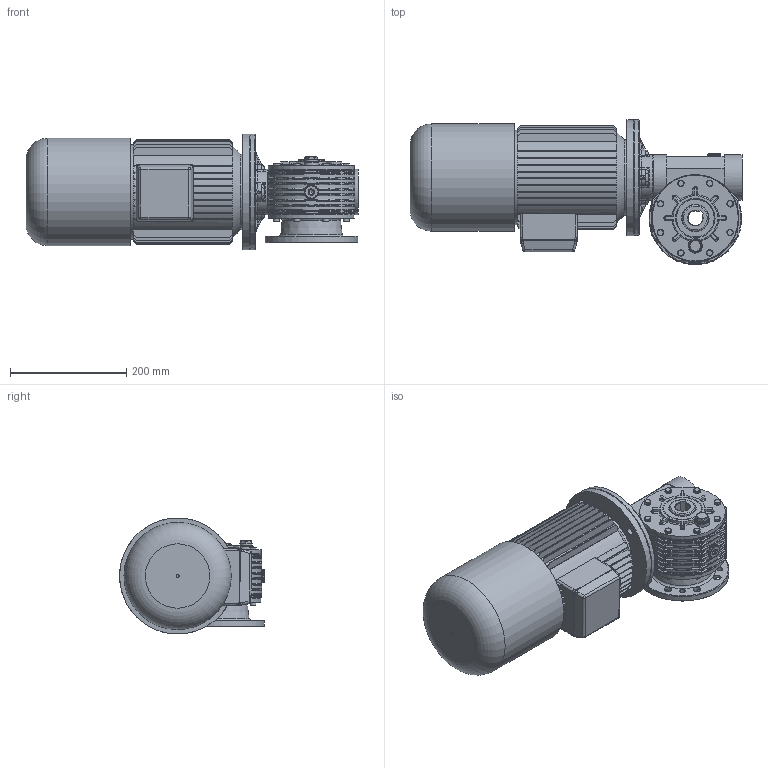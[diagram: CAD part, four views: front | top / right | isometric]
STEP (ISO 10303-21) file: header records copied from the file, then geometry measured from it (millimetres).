
FILE_DESCRIPTION((''),'2;1');
FILE_NAME('Y:\Archivi Inventor\Prog_01\GRAND_30\Figurini\MRV30 sito\90L autofrenante\MRV30_F2_90L_B5.stp','2013-02-06T11:05:41',('tech3'),(''),'Autodesk Inventor 2013','Autodesk Inventor 2013','');
FILE_SCHEMA(('AUTOMOTIVE_DESIGN { 1 0 10303 214 1 1 1 1 }'));
Length unit declared in the file: millimetre
Products named in the file (18): MRV30_90s_90L; MRV30; 0103001-A2 fig; 0103008.A1 fig F=25; PARAOLIO 45x65x10; RCA_52x7; Guarnizione 3_8 GAS; Tappo 3_8 GAS_esagn_incsst; 0103029; DIN EN 24017 M6 x 20; 0103028; 0103002-A0 fig; 0103003.A0 fig; DIN EN ISO 4762 M6 x 20; Tappo3_8 GAS; UNI 5931 M 8 x  25; 0103006; motori B5 brake 90L
Assembly tree (39 placements, depth 3):
  MRV30_90s_90L
    MRV30
      0103001-A2 fig
      0103008.A1 fig F=25
      PARAOLIO 45x65x10  x2
      RCA_52x7
      Guarnizione 3_8 GAS  x3
      Tappo 3_8 GAS_esagn_incsst  x2
      0103029  x2
      DIN EN 24017 M6 x 20  x8
      0103028
      0103002-A0 fig
      0103003.A0 fig
      DIN EN ISO 4762 M6 x 20  x8
      Tappo3_8 GAS
      UNI 5931 M 8 x  25  x4
    0103006
    motori B5 brake 90L
Bounding box: 572.4 x 249.68 x 199.97 mm (x, y, z)
Volume: 7618043.9 mm3; surface area: 1061629.2 mm2
Topology: 39 solids, 42 shells, 2086 faces, 5056 edges, 3027 vertices
Faces by surface type: plane 929, cylinder 655, torus 201, bspline 142, cone 119, sphere 40
Full cylindrical faces by diameter (mm): 2 x2, 4.917 x16, 5 x1, 6 x16, 6.5 x24, 6.647 x4, 7 x8, 8 x6, 8.5 x8, 8.88 x8, 9.5 x4, 10 x8, 11 x8, 11.5 x4, 13 x12, 13.046 x1, 14.95 x3, 16.3 x3, 16.5 x2, 22 x6, 24 x1, 25 x1, 43 x1, 45 x6, 45.76 x1, 50.881 x2, 52 x6, 55 x1, 60.5 x2, 65 x4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
Entity records: 59120 total; most frequent: CARTESIAN_POINT 18032, DIRECTION 8635, ORIENTED_EDGE 7998, EDGE_CURVE 3999, AXIS2_PLACEMENT_3D 3423, VERTEX_POINT 2541, EDGE_LOOP 2141, VECTOR 1789
